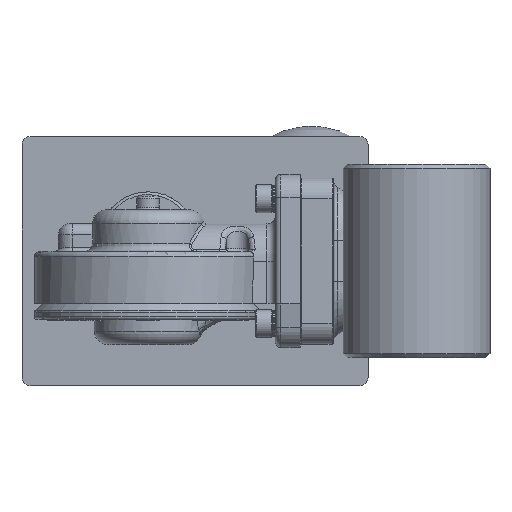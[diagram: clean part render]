
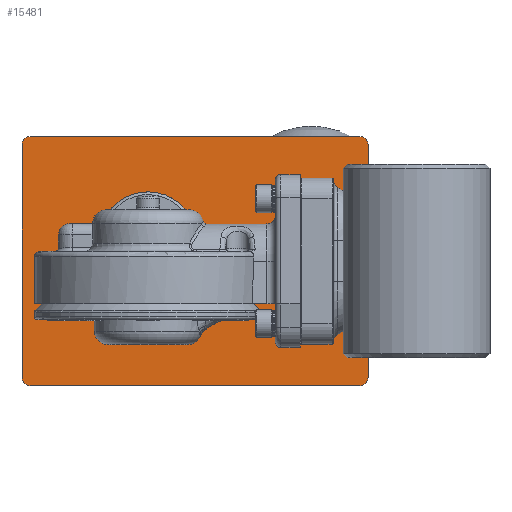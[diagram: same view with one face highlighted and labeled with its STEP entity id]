
A CAD part, left-side view. The second image highlights one B-rep face of the part: STEP entity #15481.
In plain terms, the highlighted planar face has unit normal (-1, 0, 0) as drawn and (0, 0, -1) by its records, which use the part's own axes.
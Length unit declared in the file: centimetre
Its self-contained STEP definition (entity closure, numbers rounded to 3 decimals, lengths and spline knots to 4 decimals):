
#2664=VECTOR('',#18993,1.);
#2665=VECTOR('',#18994,1.);
#2666=VECTOR('',#18997,1.);
#2667=VECTOR('',#19000,1.);
#2668=VECTOR('',#19003,1.);
#2669=VECTOR('',#19006,1.);
#2670=VECTOR('',#19009,1.);
#3667=LINE('',#31870,#2664);
#3668=LINE('',#31872,#2665);
#3669=LINE('',#31876,#2666);
#3670=LINE('',#31880,#2667);
#3671=LINE('',#31884,#2668);
#3672=LINE('',#31889,#2669);
#3673=LINE('',#31893,#2670);
#4756=PLANE('',#16498);
#5802=VERTEX_POINT('',#31855);
#5804=VERTEX_POINT('',#31860);
#5806=VERTEX_POINT('',#31865);
#5807=VERTEX_POINT('',#31868);
#5808=VERTEX_POINT('',#31869);
#5809=VERTEX_POINT('',#31871);
#5810=VERTEX_POINT('',#31873);
#5811=VERTEX_POINT('',#31875);
#5812=VERTEX_POINT('',#31877);
#5813=VERTEX_POINT('',#31879);
#5814=VERTEX_POINT('',#31881);
#5815=VERTEX_POINT('',#31883);
#5816=VERTEX_POINT('',#31885);
#5817=VERTEX_POINT('',#31887);
#5818=VERTEX_POINT('',#31888);
#5819=VERTEX_POINT('',#31890);
#5820=VERTEX_POINT('',#31892);
#6468=CIRCLE('',#16491,0.3019);
#6470=CIRCLE('',#16494,0.3019);
#6472=CIRCLE('',#16497,0.8983);
#6473=CIRCLE('',#16499,0.2);
#6474=CIRCLE('',#16500,0.3);
#6475=CIRCLE('',#16501,0.3);
#6476=CIRCLE('',#16502,0.3);
#6477=CIRCLE('',#16503,0.3);
#6478=CIRCLE('',#16504,0.2);
#8127=EDGE_CURVE('',#5802,#5802,#6468,.T.);
#8129=EDGE_CURVE('',#5804,#5804,#6470,.T.);
#8131=EDGE_CURVE('',#5806,#5806,#6472,.T.);
#8132=EDGE_CURVE('',#5807,#5808,#6473,.T.);
#8133=EDGE_CURVE('',#5807,#5809,#3667,.T.);
#8134=EDGE_CURVE('',#5810,#5809,#3668,.T.);
#8135=EDGE_CURVE('',#5811,#5810,#6474,.T.);
#8136=EDGE_CURVE('',#5812,#5811,#3669,.T.);
#8137=EDGE_CURVE('',#5813,#5812,#6475,.T.);
#8138=EDGE_CURVE('',#5814,#5813,#3670,.T.);
#8139=EDGE_CURVE('',#5815,#5814,#6476,.T.);
#8140=EDGE_CURVE('',#5816,#5815,#3671,.T.);
#8141=EDGE_CURVE('',#5817,#5816,#6477,.T.);
#8142=EDGE_CURVE('',#5818,#5817,#3668,.T.);
#8143=EDGE_CURVE('',#5818,#5819,#3672,.T.);
#8144=EDGE_CURVE('',#5820,#5819,#6478,.T.);
#8145=EDGE_CURVE('',#5820,#5808,#3673,.T.);
#11487=ORIENTED_EDGE('',*,*,#8127,.T.);
#11488=ORIENTED_EDGE('',*,*,#8129,.T.);
#11489=ORIENTED_EDGE('',*,*,#8131,.T.);
#11490=ORIENTED_EDGE('',*,*,#8132,.F.);
#11491=ORIENTED_EDGE('',*,*,#8133,.T.);
#11492=ORIENTED_EDGE('',*,*,#8134,.F.);
#11493=ORIENTED_EDGE('',*,*,#8135,.F.);
#11494=ORIENTED_EDGE('',*,*,#8136,.F.);
#11495=ORIENTED_EDGE('',*,*,#8137,.F.);
#11496=ORIENTED_EDGE('',*,*,#8138,.F.);
#11497=ORIENTED_EDGE('',*,*,#8139,.F.);
#11498=ORIENTED_EDGE('',*,*,#8140,.F.);
#11499=ORIENTED_EDGE('',*,*,#8141,.F.);
#11500=ORIENTED_EDGE('',*,*,#8142,.F.);
#11501=ORIENTED_EDGE('',*,*,#8143,.T.);
#11502=ORIENTED_EDGE('',*,*,#8144,.F.);
#11503=ORIENTED_EDGE('',*,*,#8145,.T.);
#13351=EDGE_LOOP('',(#11487));
#13352=EDGE_LOOP('',(#11488));
#13353=EDGE_LOOP('',(#11489));
#13354=EDGE_LOOP('',(#11490,#11491,#11492,#11493,#11494,#11495,#11496,#11497,
#11498,#11499,#11500,#11501,#11502,#11503));
#14495=FACE_BOUND('',#13351,.T.);
#14496=FACE_BOUND('',#13352,.T.);
#14497=FACE_BOUND('',#13353,.T.);
#14498=FACE_BOUND('',#13354,.T.);
#15481=ADVANCED_FACE('',(#14495,#14496,#14497,#14498),#4756,.F.);
#16491=AXIS2_PLACEMENT_3D('',#31854,#18976,#18977);
#16494=AXIS2_PLACEMENT_3D('',#31859,#18982,#18983);
#16497=AXIS2_PLACEMENT_3D('',#31864,#18988,#18989);
#16498=AXIS2_PLACEMENT_3D('',#31866,#18990,$);
#16499=AXIS2_PLACEMENT_3D('',#31867,#18991,#18992);
#16500=AXIS2_PLACEMENT_3D('',#31874,#18995,#18996);
#16501=AXIS2_PLACEMENT_3D('',#31878,#18998,#18999);
#16502=AXIS2_PLACEMENT_3D('',#31882,#19001,#19002);
#16503=AXIS2_PLACEMENT_3D('',#31886,#19004,#19005);
#16504=AXIS2_PLACEMENT_3D('',#31891,#19007,#19008);
#18976=DIRECTION('',(0.,0.,1.));
#18977=DIRECTION('',(0.302,0.,0.));
#18982=DIRECTION('',(0.,0.,1.));
#18983=DIRECTION('',(0.302,0.,0.));
#18988=DIRECTION('',(0.,0.,1.));
#18989=DIRECTION('',(0.898,0.,0.));
#18990=DIRECTION('',(0.,0.,1.));
#18991=DIRECTION('',(0.,0.,1.));
#18992=DIRECTION('',(-0.141,-0.141,0.));
#18993=DIRECTION('',(0.,1.,0.));
#18994=DIRECTION('',(1.,0.,0.));
#18995=DIRECTION('',(0.,0.,1.));
#18996=DIRECTION('',(-0.212,-0.212,0.));
#18997=DIRECTION('',(0.,-1.,0.));
#18998=DIRECTION('',(0.,0.,1.));
#18999=DIRECTION('',(-0.212,0.212,0.));
#19000=DIRECTION('',(-1.,0.,0.));
#19001=DIRECTION('',(0.,0.,1.));
#19002=DIRECTION('',(0.212,0.212,0.));
#19003=DIRECTION('',(0.,1.,0.));
#19004=DIRECTION('',(0.,0.,1.));
#19005=DIRECTION('',(0.212,-0.212,0.));
#19006=DIRECTION('',(0.,-1.,0.));
#19007=DIRECTION('',(0.,0.,1.));
#19008=DIRECTION('',(0.141,-0.141,0.));
#19009=DIRECTION('',(-1.,0.,0.));
#31854=CARTESIAN_POINT('',(-5.25,10.45,0.));
#31855=CARTESIAN_POINT('',(-5.5519,10.45,0.));
#31859=CARTESIAN_POINT('',(-5.25,2.95,0.));
#31860=CARTESIAN_POINT('',(-5.5519,2.95,0.));
#31864=CARTESIAN_POINT('',(-5.25,7.95,0.));
#31865=CARTESIAN_POINT('',(-6.1483,7.95,0.));
#31866=CARTESIAN_POINT('',(-4.5,6.25,0.));
#31867=CARTESIAN_POINT('',(-7.7,-0.2,0.));
#31868=CARTESIAN_POINT('',(-7.9,-0.2,0.));
#31869=CARTESIAN_POINT('',(-7.7,-0.4,0.));
#31870=CARTESIAN_POINT('',(-7.9,3.042,0.));
#31871=CARTESIAN_POINT('',(-7.9,0.,0.));
#31872=CARTESIAN_POINT('',(-9.,0.,0.));
#31873=CARTESIAN_POINT('',(-8.7,0.,0.));
#31874=CARTESIAN_POINT('',(-8.7,0.3,0.));
#31875=CARTESIAN_POINT('',(-9.,0.3,0.));
#31876=CARTESIAN_POINT('',(-9.,12.5,0.));
#31877=CARTESIAN_POINT('',(-9.,12.2,0.));
#31878=CARTESIAN_POINT('',(-8.7,12.2,0.));
#31879=CARTESIAN_POINT('',(-8.7,12.5,0.));
#31880=CARTESIAN_POINT('',(0.,12.5,0.));
#31881=CARTESIAN_POINT('',(-0.3,12.5,0.));
#31882=CARTESIAN_POINT('',(-0.3,12.2,0.));
#31883=CARTESIAN_POINT('',(0.,12.2,0.));
#31884=CARTESIAN_POINT('',(0.,0.,0.));
#31885=CARTESIAN_POINT('',(0.,0.3,0.));
#31886=CARTESIAN_POINT('',(-0.3,0.3,0.));
#31887=CARTESIAN_POINT('',(-0.3,0.,0.));
#31888=CARTESIAN_POINT('',(-1.1,0.,0.));
#31889=CARTESIAN_POINT('',(-1.1,3.042,0.));
#31890=CARTESIAN_POINT('',(-1.1,-0.2,0.));
#31891=CARTESIAN_POINT('',(-1.3,-0.2,0.));
#31892=CARTESIAN_POINT('',(-1.3,-0.4,0.));
#31893=CARTESIAN_POINT('',(-4.5,-0.4,0.));
